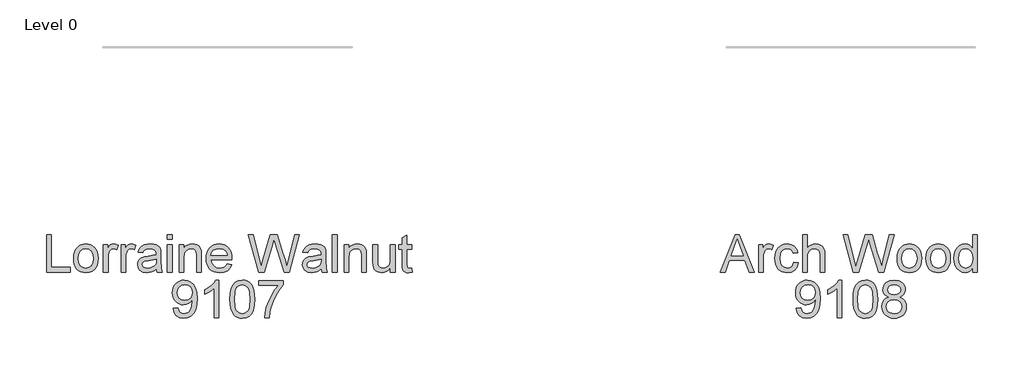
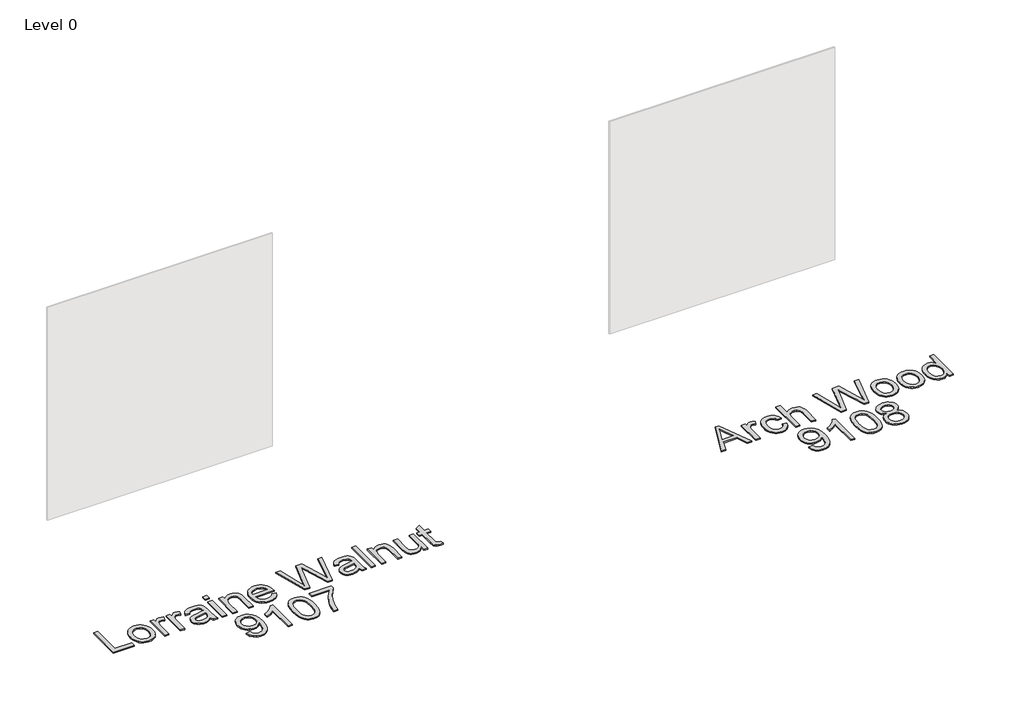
# One storey, part 3 of 10: 2 proxies.
"""IFC4 building model written with IfcOpenShell, lengths in millimetres."""

from ifc_helpers import new_model, si_unit, origin, origin_with_axes, place, context, project, spatial, polyline, outline, extrude, element, save

model = new_model("IFC4")

# Units and contexts
model_context = context("Model", 3, world=origin())
ifc_project = project(units=[si_unit("LENGTHUNIT", "METRE", prefix="MILLI")], contexts=[model_context])

# Site, building, storey
site = spatial("IfcSite", under=ifc_project)
building = spatial("IfcBuilding", under=site)
storey = spatial("IfcBuildingStorey", under=building, Name="Level 0", Elevation=0.0)

# Proxies
placement = place(None, origin())
element("IfcBuildingElementProxy", 1, Name="300mm Arial", ObjectType="300mm Arial", at=placement, inside=storey, context=model_context, shape_type="SweptSolid", body=[
    extrude(outline(polyline([(-10903.3504789, -12002.860494), (-10903.3504789, -11701.4915635), (-10865.6793626, -11701.4915635), (-10865.6793626, -11965.1893777), (-10714.9948973, -11965.1893777), (-10714.9948973, -12002.860494), (-10903.3504789, -12002.860494)])), origin_with_axes(), (0.0, 0.0, 1.0), 10.0),
    extrude(outline(polyline([(-10686.7415601, -11892.2015898), (-10684.7044136, -11863.5389839), (-10678.5929739, -11838.8403064), (-10668.4072412, -11818.1055575), (-10654.1472153, -11801.334737), (-10639.7906205, -11790.6155754), (-10623.9441035, -11782.9590314), (-10606.6076645, -11778.3651049), (-10587.7813034, -11776.8337961), (-10566.9982699, -11778.698498), (-10548.2063978, -11784.2926036), (-10531.4056869, -11793.6161129), (-10516.5961373, -11806.669026), (-10504.5089145, -11823.0098843), (-10495.875184, -11842.1972296), (-10490.6949456, -11864.2310619), (-10488.9681995, -11889.1113811), (-10492.0216201, -11927.1687735), (-10501.1818817, -11956.1394806), (-10516.1822701, -11977.8353213), (-10536.7560707, -11994.0681143), (-10561.1926322, -12004.1940662), (-10587.7813034, -12007.5693835), (-10608.8678395, -12005.7115794), (-10627.8344556, -12000.1381672), (-10644.6811517, -11990.8491468), (-10659.4079279, -11977.8445183), (-10671.366392, -11961.3450108), (-10679.908152, -11941.5713536), (-10685.0332081, -11918.5235466), (-10686.7415601, -11892.2015898)]), holes=[polyline([(-10649.0704438, -11892.1280134), (-10644.7110422, -11926.2214773), (-10631.6328372, -11950.5108861), (-10611.9511505, -11965.0514219), (-10587.7813034, -11969.8982672), (-10563.7218209, -11965.0238308), (-10544.0769224, -11950.4005215), (-10530.9987174, -11925.789216), (-10526.6393158, -11890.950791), (-10531.0263086, -11857.8506085), (-10544.187287, -11833.8922936), (-10563.8597767, -11819.3517577), (-10587.7813034, -11814.5049125), (-10611.9511505, -11819.3333636), (-10631.6328372, -11833.8187172), (-10644.7110422, -11858.0529436), (-10649.0704438, -11892.1280134)])]), origin_with_axes(), (0.0, 0.0, 1.0), 10.0),
    extrude(outline(polyline([(-10446.5881937, -12002.860494), (-10446.5881937, -11781.5426857), (-10413.6259669, -11781.5426857), (-10413.6259669, -11814.2841833), (-10401.4490728, -11795.3014723), (-10390.228672, -11784.1178596), (-10378.9714829, -11778.654812), (-10366.6842243, -11776.8337961), (-10347.9222425, -11779.7400639), (-10328.8659552, -11788.4588672), (-10341.4475194, -11822.2304343), (-10354.6912713, -11816.4362929), (-10367.9350231, -11814.5049125), (-10379.1830151, -11816.3627165), (-10389.2353906, -11821.9361288), (-10397.3563856, -11830.8020848), (-10402.8102362, -11842.5375205), (-10407.3903671, -11863.5803706), (-10408.9170773, -11886.5362071), (-10408.9170773, -12002.860494), (-10446.5881937, -12002.860494)])), origin_with_axes(), (0.0, 0.0, 1.0), 10.0),
    extrude(outline(polyline([(-10305.3215075, -12002.860494), (-10305.3215075, -11781.5426857), (-10272.3592807, -11781.5426857), (-10272.3592807, -11814.2841833), (-10260.1823867, -11795.3014723), (-10248.9619858, -11784.1178596), (-10237.7047968, -11778.654812), (-10225.4175381, -11776.8337961), (-10206.6555564, -11779.7400639), (-10187.599269, -11788.4588672), (-10200.1808333, -11822.2304343), (-10213.4245851, -11816.4362929), (-10226.6683369, -11814.5049125), (-10237.9163289, -11816.3627165), (-10247.9687045, -11821.9361288), (-10256.0896995, -11830.8020848), (-10261.5435501, -11842.5375205), (-10266.1236809, -11863.5803706), (-10267.6503912, -11886.5362071), (-10267.6503912, -12002.860494), (-10305.3215075, -12002.860494)])), origin_with_axes(), (0.0, 0.0, 1.0), 10.0),
    extrude(outline(polyline([(-10022.7881352, -11974.6071568), (-10040.7867618, -11990.0398064), (-10059.3188173, -12000.1381672), (-10078.807366, -12005.7115794), (-10099.6754722, -12007.5693835), (-10131.1569739, -12003.0996173), (-10154.3795249, -11989.6903186), (-10168.6993315, -11969.3280501), (-10173.4726004, -11943.9993748), (-10171.6699787, -11928.3827841), (-10166.2621133, -11914.2009331), (-10157.9203891, -11902.0608273), (-10147.3161906, -11892.5694718), (-10120.9390515, -11880.2086368), (-10088.3447067, -11874.5432541), (-10049.8274619, -11868.5835657), (-10023.0088644, -11861.5938078), (-10022.7881352, -11853.2060983), (-10025.3817033, -11836.3938912), (-10033.1624075, -11825.3942195), (-10050.5632258, -11817.2272392), (-10074.8066493, -11814.5049125), (-10097.247451, -11816.3167313), (-10112.919224, -11821.7521878), (-10123.606196, -11831.8045633), (-10131.0925946, -11847.4671392), (-10168.7637109, -11842.7582497), (-10162.2246084, -11822.156858), (-10152.4665385, -11805.9700502), (-10138.5789932, -11793.590821), (-10119.6514645, -11784.4121652), (-10096.50249, -11778.7283884), (-10069.950607, -11776.8337961), (-10044.4839759, -11778.5076592), (-10024.2964514, -11783.5292485), (-10009.0753338, -11791.0800264), (-9998.5079235, -11800.3414556), (-9991.4997715, -11811.7917827), (-9986.9564289, -11825.9092543), (-9985.1170189, -11858.8714811), (-9985.1170189, -11905.7396473), (-9983.2040325, -11971.1858542), (-9975.6992398, -12002.860494), (-10013.3703561, -12002.860494), (-10022.7881352, -11974.6071568)]), holes=[polyline([(-10022.7881352, -11899.2649241), (-10083.5622408, -11910.8164188), (-10115.9726446, -11916.9232599), (-10130.6511362, -11926.8560738), (-10135.8014841, -11941.3506244), (-10132.9963839, -11952.5526311), (-10124.5810833, -11961.7312869), (-10110.7395232, -11967.8565221), (-10091.6556447, -11969.8982672), (-10071.422135, -11967.64499), (-10053.54307, -11960.8851583), (-10039.0485194, -11950.9247533), (-10028.9685527, -11939.069756), (-10024.4987865, -11926.8560738), (-10023.0088644, -11909.933502), (-10022.7881352, -11899.2649241)])]), origin_with_axes(), (0.0, 0.0, 1.0), 10.0),
    extrude(outline(polyline([(-9933.319234, -11739.1626798), (-9933.319234, -11701.4915635), (-9895.6481177, -11701.4915635), (-9895.6481177, -11739.1626798), (-9933.319234, -11739.1626798)])), origin_with_axes(), (0.0, 0.0, 1.0), 10.0),
    extrude(outline(polyline([(-9933.319234, -12002.860494), (-9933.319234, -11781.5426857), (-9895.6481177, -11781.5426857), (-9895.6481177, -12002.860494), (-9933.319234, -12002.860494)])), origin_with_axes(), (0.0, 0.0, 1.0), 10.0),
    extrude(outline(polyline([(-9839.1414432, -12002.860494), (-9839.1414432, -11781.5426857), (-9801.4703269, -11781.5426857), (-9801.4703269, -11812.4447733), (-9788.3829249, -11796.8649708), (-9772.6651667, -11785.7365404), (-9754.3170522, -11779.0594822), (-9733.3385814, -11776.8337961), (-9714.7697377, -11778.6272209), (-9697.7643925, -11784.0074951), (-9683.5825416, -11792.303234), (-9673.4841808, -11802.8430532), (-9662.1902035, -11830.5445674), (-9660.2036408, -11866.964885), (-9660.2036408, -12002.860494), (-9697.8747571, -12002.860494), (-9697.8747571, -11872.0416565), (-9702.2157646, -11838.7115477), (-9708.2214382, -11828.7879309), (-9717.5564438, -11821.0900002), (-9729.5218057, -11816.1511844), (-9743.4185481, -11814.5049125), (-9765.4822707, -11818.2021265), (-9784.2902377, -11829.2937687), (-9791.8065267, -11838.3482643), (-9797.1753046, -11850.7228949), (-9801.4703269, -11885.4325611), (-9801.4703269, -12002.860494), (-9839.1414432, -12002.860494)])), origin_with_axes(), (0.0, 0.0, 1.0), 10.0),
    extrude(outline(polyline([(-9453.4539595, -11936.9360404), (-9416.5186072, -11941.64493), (-9429.8267383, -11969.4752029), (-9451.0627265, -11990.2789297), (-9479.7483251, -12003.2467701), (-9515.4052875, -12007.5693835), (-9538.7795897, -12005.7046817), (-9559.6063092, -12000.1105761), (-9577.8854458, -11990.7870668), (-9593.6169996, -11977.7341537), (-9606.2675417, -11961.3151204), (-9615.3036432, -11941.8932503), (-9620.7253042, -11919.4685435), (-9622.5325245, -11894.0409998), (-9620.7069101, -11867.7512327), (-9615.2300668, -11844.5792656), (-9606.1019948, -11824.5250983), (-9593.322694, -11807.5887309), (-9577.6325269, -11794.133447), (-9559.7718561, -11784.5225298), (-9539.7406814, -11778.7559796), (-9517.539003, -11776.8337961), (-9496.0523952, -11778.751381), (-9476.6213281, -11784.5041357), (-9459.2458016, -11794.0920602), (-9443.9258158, -11807.5151545), (-9431.4201272, -11824.4147337), (-9422.4874925, -11844.4321128), (-9417.1279117, -11867.5672917), (-9415.3413848, -11893.8202706), (-9415.562114, -11903.9738137), (-9584.8614081, -11903.9738137), (-9578.3406998, -11932.1719686), (-9563.1931586, -11952.902119), (-9541.3317711, -11965.6492302), (-9514.6695235, -11969.8982672), (-9494.6199547, -11967.9300985), (-9477.7341712, -11962.0255925), (-9464.0121727, -11951.8168672), (-9453.4539595, -11936.9360404)]), holes=[polyline([(-9584.8614081, -11866.3026974), (-9453.0125011, -11866.3026974), (-9458.1076667, -11846.4002814), (-9468.0956629, -11832.1632482), (-9490.058218, -11818.9194964), (-9517.6861558, -11814.5049125), (-9543.0792105, -11818.0273826), (-9564.0760754, -11828.5947929), (-9578.6717936, -11845.0667092), (-9584.8614081, -11866.3026974)])]), origin_with_axes(), (0.0, 0.0, 1.0), 10.0),
    extrude(outline(polyline([(-9201.30764, -12002.860494), (-9283.4924777, -11701.4915635), (-9244.644139, -11701.4915635), (-9196.9666324, -11899.5592297), (-9182.2513526, -11960.7012173), (-9166.5060032, -11906.622564), (-9106.7619672, -11701.4915635), (-9050.7703276, -11701.4915635), (-9007.3602521, -11850.189466), (-8988.7638173, -11905.3717653), (-8975.0602129, -11960.7012173), (-8960.7863915, -11901.3250633), (-8912.6674266, -11701.4915635), (-8873.8190879, -11701.4915635), (-8956.077502, -12002.860494), (-8996.3237923, -12002.860494), (-9068.5758161, -11770.359073), (-9078.6557828, -11737.9118811), (-9089.9865482, -11776.9809489), (-9155.8374254, -12002.860494), (-9201.30764, -12002.860494)])), origin_with_axes(), (0.0, 0.0, 1.0), 10.0),
    extrude(outline(polyline([(-8699.590175, -11974.6071568), (-8717.5888016, -11990.0398064), (-8736.1208571, -12000.1381672), (-8755.6094058, -12005.7115794), (-8776.4775119, -12007.5693835), (-8807.9590137, -12003.0996173), (-8831.1815646, -11989.6903186), (-8845.5013713, -11969.3280501), (-8850.2746402, -11943.9993748), (-8848.4720184, -11928.3827841), (-8843.0641531, -11914.2009331), (-8834.7224288, -11902.0608273), (-8824.1182303, -11892.5694718), (-8797.7410913, -11880.2086368), (-8765.1467465, -11874.5432541), (-8726.6295016, -11868.5835657), (-8699.8109042, -11861.5938078), (-8699.590175, -11853.2060983), (-8702.183743, -11836.3938912), (-8709.9644472, -11825.3942195), (-8727.3652656, -11817.2272392), (-8751.6086891, -11814.5049125), (-8774.0494908, -11816.3167313), (-8789.7212638, -11821.7521878), (-8800.4082357, -11831.8045633), (-8807.8946343, -11847.4671392), (-8845.5657506, -11842.7582497), (-8839.0266482, -11822.156858), (-8829.2685783, -11805.9700502), (-8815.3810329, -11793.590821), (-8796.4535043, -11784.4121652), (-8773.3045297, -11778.7283884), (-8746.7526467, -11776.8337961), (-8721.2860156, -11778.5076592), (-8701.0984911, -11783.5292485), (-8685.8773736, -11791.0800264), (-8675.3099633, -11800.3414556), (-8668.3018113, -11811.7917827), (-8663.7584686, -11825.9092543), (-8661.9190586, -11858.8714811), (-8661.9190586, -11905.7396473), (-8660.0060723, -11971.1858542), (-8652.5012796, -12002.860494), (-8690.1723959, -12002.860494), (-8699.590175, -11974.6071568)]), holes=[polyline([(-8699.590175, -11899.2649241), (-8760.3642806, -11910.8164188), (-8792.7746843, -11916.9232599), (-8807.4531759, -11926.8560738), (-8812.6035239, -11941.3506244), (-8809.7984237, -11952.5526311), (-8801.383123, -11961.7312869), (-8787.541563, -11967.8565221), (-8768.4576845, -11969.8982672), (-8748.2241747, -11967.64499), (-8730.3451098, -11960.8851583), (-8715.8505591, -11950.9247533), (-8705.7705925, -11939.069756), (-8701.3008262, -11926.8560738), (-8699.8109042, -11909.933502), (-8699.590175, -11899.2649241)])]), origin_with_axes(), (0.0, 0.0, 1.0), 10.0),
    extrude(outline(polyline([(-8610.1212737, -12002.860494), (-8610.1212737, -11701.4915635), (-8572.4501574, -11701.4915635), (-8572.4501574, -12002.860494), (-8610.1212737, -12002.860494)])), origin_with_axes(), (0.0, 0.0, 1.0), 10.0),
    extrude(outline(polyline([(-8515.943483, -12002.860494), (-8515.943483, -11781.5426857), (-8478.2723667, -11781.5426857), (-8478.2723667, -11812.4447733), (-8465.1849647, -11796.8649708), (-8449.4672064, -11785.7365404), (-8431.1190919, -11779.0594822), (-8410.1406211, -11776.8337961), (-8391.5717774, -11778.6272209), (-8374.5664322, -11784.0074951), (-8360.3845813, -11792.303234), (-8350.2862205, -11802.8430532), (-8338.9922433, -11830.5445674), (-8337.0056805, -11866.964885), (-8337.0056805, -12002.860494), (-8374.6767968, -12002.860494), (-8374.6767968, -11872.0416565), (-8379.0178044, -11838.7115477), (-8385.0234779, -11828.7879309), (-8394.3584836, -11821.0900002), (-8406.3238454, -11816.1511844), (-8420.2205878, -11814.5049125), (-8442.2843105, -11818.2021265), (-8461.0922775, -11829.2937687), (-8468.6085665, -11838.3482643), (-8473.9773444, -11850.7228949), (-8478.2723667, -11885.4325611), (-8478.2723667, -12002.860494), (-8515.943483, -12002.860494)])), origin_with_axes(), (0.0, 0.0, 1.0), 10.0),
    extrude(outline(polyline([(-8143.9412094, -12002.860494), (-8143.9412094, -11964.8214957), (-8157.5712374, -11983.5236966), (-8173.4453455, -11996.8824116), (-8191.5635337, -12004.8976405), (-8211.9258021, -12007.5693835), (-8230.2739167, -12005.6931853), (-8247.3528383, -12000.0645908), (-8261.681842, -11991.6033049), (-8271.7802028, -11981.2290327), (-8283.0006036, -11953.4907302), (-8285.2078956, -11918.4683643), (-8285.2078956, -11781.5426857), (-8247.5367793, -11781.5426857), (-8247.5367793, -11900.7364521), (-8245.2559109, -11939.1433324), (-8239.7652721, -11951.9548229), (-8230.3566901, -11961.6944987), (-8217.6555642, -11967.8473251), (-8202.2872939, -11969.8982672), (-8186.0361067, -11967.8013398), (-8170.8333833, -11961.5105577), (-8158.2978043, -11951.605335), (-8150.0480506, -11938.6650858), (-8145.4679197, -11920.9423707), (-8143.9412094, -11896.6897502), (-8143.9412094, -11781.5426857), (-8106.2700931, -11781.5426857), (-8106.2700931, -12002.860494), (-8143.9412094, -12002.860494)])), origin_with_axes(), (0.0, 0.0, 1.0), 10.0),
    extrude(outline(polyline([(-7974.4211861, -11971.4433716), (-7969.7122965, -12003.96414), (-7997.8920574, -12007.5693835), (-8015.9734574, -12006.005885), (-8029.4563325, -12001.3153896), (-8038.9844762, -11994.0865084), (-8045.2016819, -11984.9078526), (-8048.6229845, -11969.1441091), (-8049.7634187, -11942.1599648), (-8049.7634187, -11819.213802), (-8078.0167559, -11819.213802), (-8078.0167559, -11781.5426857), (-8049.7634187, -11781.5426857), (-8049.7634187, -11727.758338), (-8012.0923024, -11705.6118419), (-8012.0923024, -11781.5426857), (-7974.4211861, -11781.5426857), (-7974.4211861, -11819.213802), (-8012.0923024, -11819.213802), (-8012.0923024, -11941.0563188), (-8010.1057396, -11960.4804881), (-8003.6678047, -11967.3598814), (-7990.828723, -11969.8982672), (-7974.4211861, -11971.4433716)])), origin_with_axes(), (0.0, 0.0, 1.0), 10.0),
    extrude(outline(polyline([(-9888.5847834, -12293.4427149), (-9850.9136671, -12288.7338254), (-9844.4757321, -12310.1169663), (-9833.9910953, -12324.6758963), (-9819.7172739, -12333.0360146), (-9801.9117853, -12335.8227207), (-9785.9365097, -12334.029296), (-9771.4143679, -12328.6490218), (-9759.3478385, -12320.2705094), (-9750.7393998, -12309.4823699), (-9738.4153529, -12276.7408723), (-9732.9706994, -12233.0364913), (-9733.1914286, -12225.6788514), (-9746.2420424, -12241.6081418), (-9763.320964, -12254.2264942), (-9783.1957888, -12262.4486568), (-9804.6341121, -12265.1893777), (-9822.5292719, -12263.5155146), (-9838.9850934, -12258.4939254), (-9854.0015766, -12250.12461), (-9867.5787214, -12238.4075684), (-9878.8290127, -12223.9544045), (-9886.864935, -12207.3767221), (-9891.6864884, -12188.6745212), (-9893.2936729, -12167.8478018), (-9891.6083135, -12146.326705), (-9886.5522353, -12127.0129003), (-9878.1254384, -12109.9063875), (-9866.3279227, -12095.0071667), (-9851.9920212, -12082.9360387), (-9835.9500669, -12074.3138045), (-9818.2020599, -12069.1404639), (-9798.7480001, -12067.4160171), (-9770.6510128, -12071.3523544), (-9745.074017, -12083.1613665), (-9723.681679, -12102.254442), (-9708.1386647, -12128.0429699), (-9698.6749004, -12163.6907352), (-9695.5203123, -12212.3615232), (-9698.6657034, -12263.96617), (-9708.1018765, -12303.8537754), (-9723.7460584, -12333.8269609), (-9745.5154754, -12355.6883485), (-9772.4720286, -12369.0424649), (-9803.6776189, -12373.4938371), (-9835.8856876, -12368.2423216), (-9861.5822449, -12352.4877751), (-9879.5532804, -12327.2234791), (-9888.5847834, -12293.4427149)]), holes=[polyline([(-9733.1914286, -12166.964885), (-9737.2565246, -12141.4338745), (-9749.4518128, -12121.788976), (-9768.3793414, -12109.262594), (-9792.641159, -12105.0871334), (-9817.8042875, -12109.5844908), (-9837.9642208, -12123.0765629), (-9851.2079727, -12143.7239399), (-9855.6225566, -12169.6872117), (-9851.447096, -12192.964945), (-9838.920714, -12211.4418182), (-9819.2574214, -12223.4991506), (-9793.6712286, -12227.5182614), (-9769.6025491, -12223.4991506), (-9750.224365, -12211.4418182), (-9737.4496627, -12192.2843633), (-9733.1914286, -12166.964885)])]), origin_with_axes(), (0.0, 0.0, 1.0), 10.0),
    extrude(outline(polyline([(-9521.2913994, -12368.7849475), (-9558.9625157, -12368.7849475), (-9558.9625157, -12133.9290818), (-9594.6470692, -12159.3497277), (-9634.3047483, -12178.3692268), (-9634.3047483, -12142.7582497), (-9604.7178388, -12126.6634124), (-9579.0856608, -12107.5151545), (-9558.8797422, -12087.1528861), (-9545.5716111, -12067.4160171), (-9521.2913994, -12067.4160171), (-9521.2913994, -12368.7849475)])), origin_with_axes(), (0.0, 0.0, 1.0), 10.0),
    extrude(outline(polyline([(-9431.8224982, -12220.5285035), (-9429.0541861, -12172.2899768), (-9420.7492501, -12133.8187172), (-9406.9904635, -12104.5261133), (-9387.8605997, -12083.8235541), (-9363.2217031, -12071.5179013), (-9332.9358179, -12067.4160171), (-9309.722464, -12069.8440382), (-9288.9371312, -12077.1281017), (-9271.554707, -12088.983099), (-9258.5500784, -12105.1239216), (-9248.7276292, -12125.4126136), (-9240.8917427, -12149.7112194), (-9235.7597888, -12180.5673217), (-9234.0491375, -12220.5285035), (-9236.7898584, -12268.4911186), (-9245.012021, -12306.8704077), (-9258.6880342, -12336.1906027), (-9277.7903068, -12356.9759355), (-9302.4843857, -12369.3643617), (-9332.9358179, -12373.4938371), (-9353.6843624, -12371.7004123), (-9372.0784621, -12366.3201381), (-9388.1181171, -12357.3530145), (-9401.8033273, -12344.7990414), (-9414.9367146, -12322.1053209), (-9424.3177055, -12293.828991), (-9429.9463, -12259.9700519), (-9431.8224982, -12220.5285035)]), holes=[polyline([(-9394.1513818, -12220.4549271), (-9389.7367979, -12279.7115194), (-9384.218568, -12299.9795181), (-9376.4930461, -12314.0073184), (-9356.7745711, -12330.3688702), (-9332.9358179, -12335.8227207), (-9309.0970646, -12330.3504761), (-9289.3785896, -12313.933742), (-9281.6530677, -12299.8829491), (-9276.1348378, -12279.6195489), (-9271.7202539, -12220.4549271), (-9275.987685, -12162.5319069), (-9281.3219739, -12142.3305869), (-9288.7899784, -12127.9693935), (-9308.4716652, -12110.8076984), (-9333.3772762, -12105.0871334), (-9356.9585121, -12110.1271167), (-9375.9044349, -12125.2470667), (-9383.8874742, -12140.8820515), (-9389.5896451, -12161.9616898), (-9394.1513818, -12220.4549271)])]), origin_with_axes(), (0.0, 0.0, 1.0), 10.0),
    extrude(outline(polyline([(-9201.0869108, -12109.7960229), (-9201.0869108, -12072.1249066), (-9003.3135502, -12072.1249066), (-9003.3135502, -12102.5855358), (-9031.5025081, -12138.2608923), (-9059.4155544, -12183.6299393), (-9084.036057, -12234.5540045), (-9102.3473833, -12286.8944154), (-9111.323704, -12326.0554538), (-9116.3268991, -12368.7849475), (-9153.9980154, -12368.7849475), (-9149.9237223, -12329.9550029), (-9139.0252182, -12283.8042066), (-9121.5968087, -12234.8850983), (-9097.9327993, -12187.7502177), (-9070.3048615, -12145.1402856), (-9040.9846665, -12109.7960229), (-9201.0869108, -12109.7960229)])), origin_with_axes(), (0.0, 0.0, 1.0), 10.0),
])
element("IfcBuildingElementProxy", 2, Name="300mm Arial", ObjectType="300mm Arial", at=placement, inside=storey, context=model_context, shape_type="SweptSolid", body=[
    extrude(outline(polyline([(-5498.1652494, -12002.860494), (-5377.867837, -11701.4915635), (-5345.788527, -11701.4915635), (-5225.4911145, -12002.860494), (-5265.2959464, -12002.860494), (-5299.8032776, -11908.6827032), (-5423.9266627, -11908.6827032), (-5458.3604175, -12002.860494), (-5498.1652494, -12002.860494)]), holes=[polyline([(-5410.0942997, -11871.0115869), (-5313.5620642, -11871.0115869), (-5340.7117554, -11796.9201531), (-5361.828182, -11739.1626798), (-5380.5901637, -11790.44543), (-5410.0942997, -11871.0115869)])]), origin_with_axes(), (0.0, 0.0, 1.0), 10.0),
    extrude(outline(polyline([(-5189.9537138, -12002.860494), (-5189.9537138, -11781.5426857), (-5156.991487, -11781.5426857), (-5156.991487, -11814.2841833), (-5144.814593, -11795.3014723), (-5133.5941922, -11784.1178596), (-5122.3370031, -11778.654812), (-5110.0497445, -11776.8337961), (-5091.2877627, -11779.7400639), (-5072.2314754, -11788.4588672), (-5084.8130396, -11822.2304343), (-5098.0567914, -11816.4362929), (-5111.3005432, -11814.5049125), (-5122.5485352, -11816.3627165), (-5132.6009108, -11821.9361288), (-5140.7219058, -11830.8020848), (-5146.1757564, -11842.5375205), (-5150.7558872, -11863.5803706), (-5152.2825975, -11886.5362071), (-5152.2825975, -12002.860494), (-5189.9537138, -12002.860494)])), origin_with_axes(), (0.0, 0.0, 1.0), 10.0),
    extrude(outline(polyline([(-4907.4203415, -11922.8093718), (-4869.7492252, -11927.5182614), (-4880.2522562, -11961.0231141), (-4899.9891252, -11986.3425924), (-4927.1020283, -12002.2626857), (-4959.7331612, -12007.5693835), (-4980.8610841, -12005.7184772), (-4999.8047076, -12000.1657584), (-5016.5640317, -11990.9112269), (-5031.1390565, -11977.9548829), (-5042.9365722, -11961.5404481), (-5051.3633692, -11941.9116444), (-5056.4194474, -11919.0684718), (-5058.1048067, -11893.0109302), (-5055.2261301, -11859.4876834), (-5046.5901003, -11830.4342028), (-5032.0587615, -11806.9725286), (-5011.494158, -11790.2247008), (-4986.8920495, -11780.1815223), (-4960.248196, -11776.8337961), (-4928.4172064, -11781.4323211), (-4902.9689694, -11795.2278959), (-4884.7128254, -11817.4847566), (-4874.4581148, -11847.4671392), (-4912.1292311, -11852.1760288), (-4918.9626391, -11835.7409006), (-4929.6036258, -11823.9594797), (-4943.46358, -11816.8685543), (-4959.9538904, -11814.5049125), (-4984.2984815, -11819.1586197), (-5003.6214833, -11833.1197414), (-5016.2306386, -11857.1424357), (-5020.4336904, -11891.9808606), (-5016.3226091, -11927.2883351), (-5003.9893653, -11951.3938029), (-4985.0158514, -11965.2721511), (-4960.98396, -11969.8982672), (-4941.4770172, -11967.0103936), (-4925.4833475, -11958.3467726), (-4913.8490794, -11943.6866751), (-4907.4203415, -11922.8093718)])), origin_with_axes(), (0.0, 0.0, 1.0), 10.0),
    extrude(outline(polyline([(-4836.7869984, -12002.860494), (-4836.7869984, -11701.4915635), (-4799.1158821, -11701.4915635), (-4799.1158821, -11812.2976205), (-4785.2789206, -11796.7821973), (-4769.7405048, -11785.6997522), (-4752.5006348, -11779.0502852), (-4733.5593106, -11776.8337961), (-4710.8058092, -11779.2526203), (-4691.2528812, -11786.5090926), (-4675.8570197, -11798.0329961), (-4665.5747179, -11813.2541137), (-4659.7805765, -11834.1682051), (-4657.849196, -11862.7710302), (-4657.849196, -12002.860494), (-4695.5203123, -12002.860494), (-4695.5203123, -11866.6705794), (-4698.5185506, -11843.0893435), (-4707.5132653, -11826.9393239), (-4722.0078159, -11817.6135153), (-4741.5055617, -11814.5049125), (-4757.425655, -11816.6018398), (-4772.3708611, -11822.8926219), (-4784.7500902, -11832.7702535), (-4792.9722528, -11845.6277292), (-4797.5799748, -11862.7158479), (-4799.1158821, -11885.2854083), (-4799.1158821, -12002.860494), (-4836.7869984, -12002.860494)])), origin_with_axes(), (0.0, 0.0, 1.0), 10.0),
    extrude(outline(polyline([(-4429.6887826, -12002.860494), (-4511.8736203, -11701.4915635), (-4473.0252816, -11701.4915635), (-4425.347775, -11899.5592297), (-4410.6324952, -11960.7012173), (-4394.8871458, -11906.622564), (-4335.1431098, -11701.4915635), (-4279.1514702, -11701.4915635), (-4235.7413947, -11850.189466), (-4217.1449599, -11905.3717653), (-4203.4413555, -11960.7012173), (-4189.1675341, -11901.3250633), (-4141.0485692, -11701.4915635), (-4102.2002305, -11701.4915635), (-4184.4586446, -12002.860494), (-4224.7049349, -12002.860494), (-4296.9569587, -11770.359073), (-4307.0369254, -11737.9118811), (-4318.3676908, -11776.9809489), (-4384.218568, -12002.860494), (-4429.6887826, -12002.860494)])), origin_with_axes(), (0.0, 0.0, 1.0), 10.0),
    extrude(outline(polyline([(-4078.6557828, -11892.2015898), (-4076.6186362, -11863.5389839), (-4070.5071966, -11838.8403064), (-4060.3214639, -11818.1055575), (-4046.061438, -11801.334737), (-4031.7048432, -11790.6155754), (-4015.8583262, -11782.9590314), (-3998.5218872, -11778.3651049), (-3979.6955261, -11776.8337961), (-3958.9124926, -11778.698498), (-3940.1206205, -11784.2926036), (-3923.3199096, -11793.6161129), (-3908.51036, -11806.669026), (-3896.4231372, -11823.0098843), (-3887.7894066, -11842.1972296), (-3882.6091683, -11864.2310619), (-3880.8824222, -11889.1113811), (-3883.9358427, -11927.1687735), (-3893.0961044, -11956.1394806), (-3908.0964928, -11977.8353213), (-3928.6702934, -11994.0681143), (-3953.1068549, -12004.1940662), (-3979.6955261, -12007.5693835), (-4000.7820622, -12005.7115794), (-4019.7486783, -12000.1381672), (-4036.5953744, -11990.8491468), (-4051.3221505, -11977.8445183), (-4063.2806146, -11961.3450108), (-4071.8223747, -11941.5713536), (-4076.9474308, -11918.5235466), (-4078.6557828, -11892.2015898)]), holes=[polyline([(-4040.9846665, -11892.1280134), (-4036.6252648, -11926.2214773), (-4023.5470599, -11950.5108861), (-4003.8653732, -11965.0514219), (-3979.6955261, -11969.8982672), (-3955.6360436, -11965.0238308), (-3935.9911451, -11950.4005215), (-3922.9129401, -11925.789216), (-3918.5535385, -11890.950791), (-3922.9405313, -11857.8506085), (-3936.1015097, -11833.8922936), (-3955.7739993, -11819.3517577), (-3979.6955261, -11814.5049125), (-4003.8653732, -11819.3333636), (-4023.5470599, -11833.8187172), (-4036.6252648, -11858.0529436), (-4040.9846665, -11892.1280134)])]), origin_with_axes(), (0.0, 0.0, 1.0), 10.0),
    extrude(outline(polyline([(-3847.9201954, -11892.2015898), (-3845.8830489, -11863.5389839), (-3839.7716092, -11838.8403064), (-3829.5858765, -11818.1055575), (-3815.3258506, -11801.334737), (-3800.9692558, -11790.6155754), (-3785.1227388, -11782.9590314), (-3767.7862998, -11778.3651049), (-3748.9599387, -11776.8337961), (-3728.1769052, -11778.698498), (-3709.3850331, -11784.2926036), (-3692.5843222, -11793.6161129), (-3677.7747726, -11806.669026), (-3665.6875498, -11823.0098843), (-3657.0538193, -11842.1972296), (-3651.8735809, -11864.2310619), (-3650.1468348, -11889.1113811), (-3653.2002554, -11927.1687735), (-3662.360517, -11956.1394806), (-3677.3609054, -11977.8353213), (-3697.934706, -11994.0681143), (-3722.3712675, -12004.1940662), (-3748.9599387, -12007.5693835), (-3770.0464748, -12005.7115794), (-3789.0130909, -12000.1381672), (-3805.859787, -11990.8491468), (-3820.5865632, -11977.8445183), (-3832.5450273, -11961.3450108), (-3841.0867873, -11941.5713536), (-3846.2118434, -11918.5235466), (-3847.9201954, -11892.2015898)]), holes=[polyline([(-3810.2490791, -11892.1280134), (-3805.8896775, -11926.2214773), (-3792.8114725, -11950.5108861), (-3773.1297858, -11965.0514219), (-3748.9599387, -11969.8982672), (-3724.9004562, -11965.0238308), (-3705.2555577, -11950.4005215), (-3692.1773528, -11925.789216), (-3687.8179511, -11890.950791), (-3692.2049439, -11857.8506085), (-3705.3659223, -11833.8922936), (-3725.038412, -11819.3517577), (-3748.9599387, -11814.5049125), (-3773.1297858, -11819.3333636), (-3792.8114725, -11833.8187172), (-3805.8896775, -11858.0529436), (-3810.2490791, -11892.1280134)])]), origin_with_axes(), (0.0, 0.0, 1.0), 10.0),
    extrude(outline(polyline([(-3471.2090323, -12002.860494), (-3471.2090323, -11967.3230932), (-3482.480017, -11984.9308452), (-3496.1330375, -11997.507811), (-3512.168094, -12005.0539904), (-3530.5851864, -12007.5693835), (-3554.9389745, -12003.9273518), (-3577.2326234, -11993.0012565), (-3596.1049697, -11975.5544529), (-3610.1948501, -11952.350296), (-3618.9688357, -11924.3268851), (-3621.8934976, -11892.422319), (-3619.198762, -11860.9132261), (-3611.1145551, -11832.4575538), (-3597.6500741, -11808.6739828), (-3578.8145159, -11791.181194), (-3556.0334234, -11780.4206456), (-3530.7323392, -11776.8337961), (-3512.3014512, -11779.3997731), (-3496.0042788, -11787.0977038), (-3482.1903099, -11798.8975188), (-3471.2090323, -11813.7691485), (-3471.2090323, -11701.4915635), (-3433.537916, -11701.4915635), (-3433.537916, -12002.860494), (-3471.2090323, -12002.860494)]), holes=[polyline([(-3584.2223813, -11892.2751662), (-3579.9733442, -11926.350236), (-3567.2262331, -11950.5844625), (-3548.7033746, -11965.069816), (-3527.1270956, -11969.8982672), (-3505.5600136, -11965.2905452), (-3487.5062047, -11951.4673793), (-3475.2833254, -11928.1712519), (-3471.2090323, -11895.1446458), (-3475.3569018, -11859.037028), (-3487.8005103, -11834.0026582), (-3506.3141717, -11819.3793489), (-3528.6722, -11814.5049125), (-3550.4692082, -11819.1862108), (-3568.3298791, -11833.230106), (-3580.2492557, -11857.3539678), (-3584.2223813, -11892.2751662)])]), origin_with_axes(), (0.0, 0.0, 1.0), 10.0),
    extrude(outline(polyline([(-4888.5847834, -12293.4427149), (-4850.9136671, -12288.7338254), (-4844.4757321, -12310.1169663), (-4833.9910953, -12324.6758963), (-4819.7172739, -12333.0360146), (-4801.9117853, -12335.8227207), (-4785.9365097, -12334.029296), (-4771.4143679, -12328.6490218), (-4759.3478385, -12320.2705094), (-4750.7393998, -12309.4823699), (-4738.4153529, -12276.7408723), (-4732.9706994, -12233.0364913), (-4733.1914286, -12225.6788514), (-4746.2420424, -12241.6081418), (-4763.320964, -12254.2264942), (-4783.1957888, -12262.4486568), (-4804.6341121, -12265.1893777), (-4822.5292719, -12263.5155146), (-4838.9850934, -12258.4939254), (-4854.0015766, -12250.12461), (-4867.5787214, -12238.4075684), (-4878.8290127, -12223.9544045), (-4886.864935, -12207.3767221), (-4891.6864884, -12188.6745212), (-4893.2936729, -12167.8478018), (-4891.6083135, -12146.326705), (-4886.5522353, -12127.0129003), (-4878.1254384, -12109.9063875), (-4866.3279227, -12095.0071667), (-4851.9920212, -12082.9360387), (-4835.9500669, -12074.3138045), (-4818.2020599, -12069.1404639), (-4798.7480001, -12067.4160171), (-4770.6510128, -12071.3523544), (-4745.074017, -12083.1613665), (-4723.681679, -12102.254442), (-4708.1386647, -12128.0429699), (-4698.6749004, -12163.6907352), (-4695.5203123, -12212.3615232), (-4698.6657034, -12263.96617), (-4708.1018765, -12303.8537754), (-4723.7460584, -12333.8269609), (-4745.5154754, -12355.6883485), (-4772.4720286, -12369.0424649), (-4803.6776189, -12373.4938371), (-4835.8856876, -12368.2423216), (-4861.5822449, -12352.4877751), (-4879.5532804, -12327.2234791), (-4888.5847834, -12293.4427149)]), holes=[polyline([(-4733.1914286, -12166.964885), (-4737.2565246, -12141.4338745), (-4749.4518128, -12121.788976), (-4768.3793414, -12109.262594), (-4792.641159, -12105.0871334), (-4817.8042875, -12109.5844908), (-4837.9642208, -12123.0765629), (-4851.2079727, -12143.7239399), (-4855.6225566, -12169.6872117), (-4851.447096, -12192.964945), (-4838.920714, -12211.4418182), (-4819.2574214, -12223.4991506), (-4793.6712286, -12227.5182614), (-4769.6025491, -12223.4991506), (-4750.224365, -12211.4418182), (-4737.4496627, -12192.2843633), (-4733.1914286, -12166.964885)])]), origin_with_axes(), (0.0, 0.0, 1.0), 10.0),
    extrude(outline(polyline([(-4521.2913994, -12368.7849475), (-4558.9625157, -12368.7849475), (-4558.9625157, -12133.9290818), (-4594.6470692, -12159.3497277), (-4634.3047483, -12178.3692268), (-4634.3047483, -12142.7582497), (-4604.7178388, -12126.6634124), (-4579.0856608, -12107.5151545), (-4558.8797422, -12087.1528861), (-4545.5716111, -12067.4160171), (-4521.2913994, -12067.4160171), (-4521.2913994, -12368.7849475)])), origin_with_axes(), (0.0, 0.0, 1.0), 10.0),
    extrude(outline(polyline([(-4431.8224982, -12220.5285035), (-4429.0541861, -12172.2899768), (-4420.7492501, -12133.8187172), (-4406.9904635, -12104.5261133), (-4387.8605997, -12083.8235541), (-4363.2217031, -12071.5179013), (-4332.9358179, -12067.4160171), (-4309.722464, -12069.8440382), (-4288.9371312, -12077.1281017), (-4271.554707, -12088.983099), (-4258.5500784, -12105.1239216), (-4248.7276292, -12125.4126136), (-4240.8917427, -12149.7112194), (-4235.7597888, -12180.5673217), (-4234.0491375, -12220.5285035), (-4236.7898584, -12268.4911186), (-4245.012021, -12306.8704077), (-4258.6880342, -12336.1906027), (-4277.7903068, -12356.9759355), (-4302.4843857, -12369.3643617), (-4332.9358179, -12373.4938371), (-4353.6843624, -12371.7004123), (-4372.0784621, -12366.3201381), (-4388.1181171, -12357.3530145), (-4401.8033273, -12344.7990414), (-4414.9367146, -12322.1053209), (-4424.3177055, -12293.828991), (-4429.9463, -12259.9700519), (-4431.8224982, -12220.5285035)]), holes=[polyline([(-4394.1513818, -12220.4549271), (-4389.7367979, -12279.7115194), (-4384.218568, -12299.9795181), (-4376.4930461, -12314.0073184), (-4356.7745711, -12330.3688702), (-4332.9358179, -12335.8227207), (-4309.0970646, -12330.3504761), (-4289.3785896, -12313.933742), (-4281.6530677, -12299.8829491), (-4276.1348378, -12279.6195489), (-4271.7202539, -12220.4549271), (-4275.987685, -12162.5319069), (-4281.3219739, -12142.3305869), (-4288.7899784, -12127.9693935), (-4308.4716652, -12110.8076984), (-4333.3772762, -12105.0871334), (-4356.9585121, -12110.1271167), (-4375.9044349, -12125.2470667), (-4383.8874742, -12140.8820515), (-4389.5896451, -12161.9616898), (-4394.1513818, -12220.4549271)])]), origin_with_axes(), (0.0, 0.0, 1.0), 10.0),
    extrude(outline(polyline([(-4146.1989171, -12202.7965913), (-4166.3680475, -12192.8637774), (-4180.5223072, -12179.3992964), (-4188.8824256, -12162.6790597), (-4191.6691317, -12142.9789789), (-4190.1516185, -12127.6153071), (-4185.5990788, -12113.5300252), (-4178.0115126, -12100.7231332), (-4167.38892, -12089.1946312), (-4154.2417372, -12079.6664875), (-4139.0804005, -12072.8606706), (-4102.7152653, -12067.4160171), (-4066.1294008, -12072.9894293), (-4050.8025172, -12079.9561946), (-4037.4529993, -12089.709666), (-4026.6372687, -12101.4634957), (-4018.9117468, -12114.4313361), (-4014.2764336, -12128.613187), (-4012.7313292, -12144.0090485), (-4015.4812472, -12163.0745329), (-4023.7310009, -12179.509661), (-4037.572561, -12192.8913686), (-4057.0978979, -12202.7965913), (-4033.9121351, -12214.7435591), (-4017.0355486, -12232.3375155), (-4006.7440498, -12254.732332), (-4003.3135502, -12281.0818799), (-4005.0150044, -12299.8714528), (-4010.1193671, -12317.0975272), (-4018.6266382, -12332.7601031), (-4030.5368178, -12346.8591806), (-4045.2245065, -12358.5118428), (-4062.0643048, -12366.8351729), (-4081.0562128, -12371.829171), (-4102.2002305, -12373.4938371), (-4123.3442481, -12371.8222732), (-4142.3361561, -12366.8075818), (-4159.1759545, -12358.4497627), (-4173.8636431, -12346.748816), (-4185.7738227, -12332.5508703), (-4194.2810939, -12316.702054), (-4199.3854566, -12299.2023674), (-4201.0869108, -12280.0518103), (-4197.5184554, -12252.6813898), (-4186.8130894, -12230.1670117), (-4169.5226356, -12213.2812282), (-4146.1989171, -12202.7965913)]), holes=[polyline([(-4153.9980154, -12144.0826249), (-4150.6594863, -12160.52695), (-4140.643899, -12173.6603373), (-4124.245559, -12182.268776), (-4101.7587721, -12185.1382555), (-4079.796217, -12182.2871701), (-4063.6461974, -12173.7339137), (-4053.7133835, -12161.0419848), (-4050.4024456, -12145.774882), (-4053.8237481, -12129.9283651), (-4064.0876558, -12116.822569), (-4080.4584046, -12108.0209923), (-4102.2002305, -12105.0871334), (-4124.0800121, -12107.9566129), (-4140.4231698, -12116.5650516), (-4150.604304, -12129.1834041), (-4153.9980154, -12144.0826249)]), polyline([(-4163.4157945, -12278.7274351), (-4157.1250124, -12307.0911369), (-4148.4154061, -12319.2588339), (-4134.8681516, -12328.317928), (-4118.6445557, -12333.9465226), (-4101.9059249, -12335.8227207), (-4076.2645498, -12331.8771864), (-4057.0243215, -12320.0405832), (-4044.9945802, -12302.1155329), (-4040.9846665, -12279.9046575), (-4045.1233389, -12257.316703), (-4057.5393563, -12238.9961796), (-4077.221043, -12226.8560738), (-4103.1567237, -12222.8093718), (-4128.4394138, -12226.8008915), (-4147.4865041, -12238.7754504), (-4159.4334719, -12256.7464859), (-4163.4157945, -12278.7274351)])]), origin_with_axes(), (0.0, 0.0, 1.0), 10.0),
])

save(model, "model.ifc")
